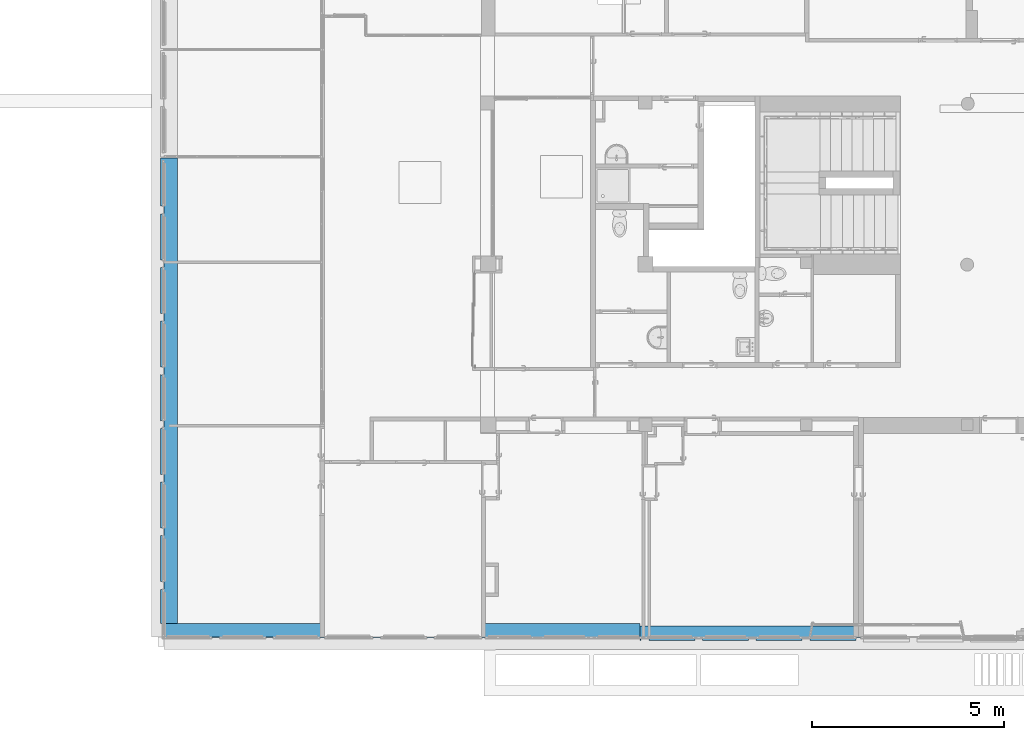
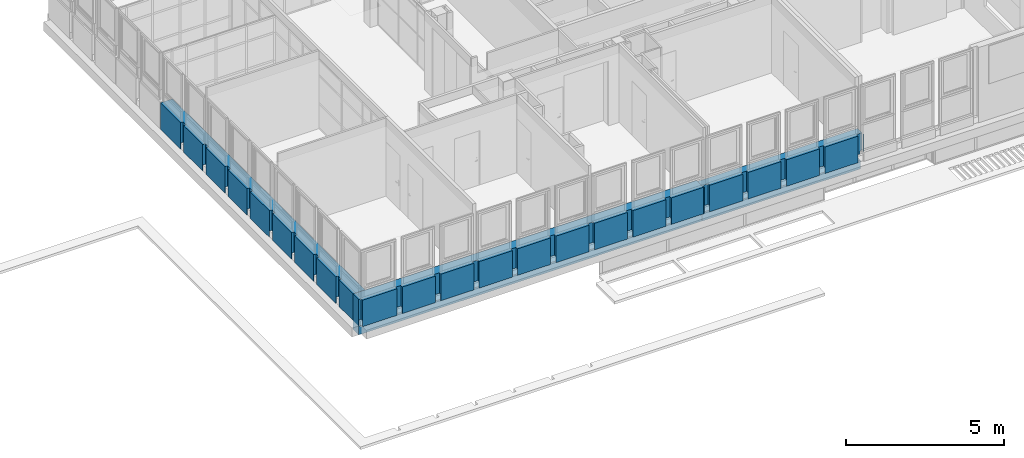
# One storey, part 71 of 97: 3 walls.
"""IFC4 building model written with IfcOpenShell, lengths in metres."""

from ifc_helpers import new_model, entity, si_unit, converted_unit, derived_unit, direction, frame, origin, place, context, subcontext, project, spatial, polygons, material, layer, layer_set, type_object, element, save


model = new_model("IFC4")

# Units and contexts
model_context = context("Model", 3, precision=1e-05, world=origin(), true_north=direction((6.12303176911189e-17, 1.0)))
body_context = subcontext(model_context, "Body", "Model", "MODEL_VIEW")
ifc_project = project(units=[si_unit("LENGTHUNIT", "METRE"), si_unit("AREAUNIT", "SQUARE_METRE"), si_unit("VOLUMEUNIT", "CUBIC_METRE"), converted_unit("PLANEANGLEUNIT", "DEGREE", entity("IfcRatioMeasure", 0.0174532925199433), si_unit("PLANEANGLEUNIT", "RADIAN"), dimensions=[0, 0, 0, 0, 0, 0, 0]), si_unit("MASSUNIT", "GRAM", prefix="KILO"), derived_unit("MASSDENSITYUNIT", [(si_unit("MASSUNIT", "GRAM", prefix="KILO"), 1), (si_unit("LENGTHUNIT", "METRE"), -3)]), derived_unit("MOMENTOFINERTIAUNIT", [(si_unit("LENGTHUNIT", "METRE"), 4)]), si_unit("TIMEUNIT", "SECOND"), si_unit("FREQUENCYUNIT", "HERTZ"), si_unit("THERMODYNAMICTEMPERATUREUNIT", "DEGREE_CELSIUS"), derived_unit("THERMALTRANSMITTANCEUNIT", [(si_unit("MASSUNIT", "GRAM", prefix="KILO"), 1), (si_unit("THERMODYNAMICTEMPERATUREUNIT", "KELVIN"), -1), (si_unit("TIMEUNIT", "SECOND"), -3)]), derived_unit("VOLUMETRICFLOWRATEUNIT", [(si_unit("LENGTHUNIT", "METRE"), 3), (si_unit("TIMEUNIT", "SECOND"), -1)]), si_unit("ELECTRICCURRENTUNIT", "AMPERE"), si_unit("ELECTRICVOLTAGEUNIT", "VOLT"), si_unit("POWERUNIT", "WATT"), si_unit("FORCEUNIT", "NEWTON", prefix="KILO"), si_unit("ILLUMINANCEUNIT", "LUX"), si_unit("LUMINOUSFLUXUNIT", "LUMEN"), si_unit("LUMINOUSINTENSITYUNIT", "CANDELA"), derived_unit("USERDEFINED", [(si_unit("MASSUNIT", "GRAM", prefix="KILO"), -1), (si_unit("LENGTHUNIT", "METRE"), -2), (si_unit("TIMEUNIT", "SECOND"), 3), (si_unit("LUMINOUSFLUXUNIT", "LUMEN"), 1)]), derived_unit("LINEARVELOCITYUNIT", [(si_unit("LENGTHUNIT", "METRE"), 1), (si_unit("TIMEUNIT", "SECOND"), -1)]), si_unit("PRESSUREUNIT", "PASCAL"), derived_unit("USERDEFINED", [(si_unit("LENGTHUNIT", "METRE"), -2), (si_unit("MASSUNIT", "GRAM", prefix="KILO"), 1), (si_unit("TIMEUNIT", "SECOND"), -2)]), derived_unit("LINEARFORCEUNIT", [(si_unit("MASSUNIT", "GRAM", prefix="KILO"), 1), (si_unit("LENGTHUNIT", "METRE"), 1), (si_unit("TIMEUNIT", "SECOND"), -2), (si_unit("LENGTHUNIT", "METRE"), -1)]), derived_unit("PLANARFORCEUNIT", [(si_unit("MASSUNIT", "GRAM", prefix="KILO"), 1), (si_unit("LENGTHUNIT", "METRE"), 1), (si_unit("TIMEUNIT", "SECOND"), -2), (si_unit("LENGTHUNIT", "METRE"), -2)])], contexts=[model_context])

# Site, building, storey
site_placement = place(None, origin())
site = spatial("IfcSite", under=ifc_project, at=site_placement, Name="Default", CompositionType="ELEMENT")
building_placement = place(site_placement, origin())
building = spatial("IfcBuilding", under=site, at=building_placement, Name="HOTEL CONSULAIRE BOULOGNE SUR MER", CompositionType="ELEMENT")
storey_placement = place(building_placement, frame((0.0, 0.0, 3.62152697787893)))
storey = spatial("IfcBuildingStorey", under=building, at=storey_placement, Name="Niveau 1", CompositionType="ELEMENT", Elevation=3.62152697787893)

# Walls
ifc_material = material(Name="Mur par défaut", Category="Divers")
ifc_layer_1 = layer(ifc_material, 0.44, Name="Mur par défaut", Category="Divers")
ifc_layer_set_1 = layer_set([ifc_layer_1], Name="Mur de base:Générique - Ext.440")
wall_type_1 = type_object("IfcWallType", Name="Mur de base:Générique - Ext.440", PredefinedType="NOTDEFINED", material=ifc_layer_set_1)
wall_1_placement = place(storey_placement, frame((-13.6630998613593, -29.2001047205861, -0.230422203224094), z_axis=(0.0, 0.0, 1.0), x_axis=(0.0, 1.0, 0.0)))
element("IfcWall", 1, at=wall_1_placement, inside=storey, type_object=wall_type_1, material=ifc_layer_set_1, Name="Mur de base:Générique - Ext.440", ObjectType="Mur de base:Générique - Ext.440", PredefinedType="NOTDEFINED", context=body_context, shape_type="Tessellation", body=[
    polygons([(0.0, 0.22, 0.0), (0.0, 0.22, 1.02203474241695), (0.890754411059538, 0.220000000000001, 1.02203474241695), (0.890754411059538, 0.220000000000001, 0.0), (1.08655521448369, 0.220000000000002, 0.0), (1.08655521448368, 0.220000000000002, 1.02203474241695), (2.29075441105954, 0.22, 1.02203474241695), (2.29075441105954, 0.22, 0.0), (2.48655521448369, 0.22, 0.0), (2.48655521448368, 0.22, 1.02203474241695), (3.69075441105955, 0.22, 1.02203474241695), (3.69075441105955, 0.22, 0.0), (3.88655521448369, 0.22, 0.0), (3.88655521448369, 0.22, 1.02203474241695), (5.09075441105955, 0.22, 1.02203474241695), (5.09075441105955, 0.22, 0.0), (5.28655521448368, 0.220000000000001, 0.0), (5.28655521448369, 0.220000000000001, 1.02203474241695), (6.49075441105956, 0.220000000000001, 1.02203474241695), (6.49075441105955, 0.220000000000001, 0.0), (6.6865552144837, 0.220000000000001, 0.0), (6.68655521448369, 0.220000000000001, 1.02203474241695), (7.89075441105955, 0.220000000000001, 1.02203474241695), (7.89075441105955, 0.220000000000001, 0.0), (8.08655521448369, 0.220000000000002, 0.0), (8.08655521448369, 0.220000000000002, 1.02203474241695), (9.29075441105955, 0.22, 1.02203474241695), (9.29075441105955, 0.22, 0.0), (9.4865552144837, 0.22, 0.0), (9.4865552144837, 0.22, 1.02203474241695), (10.6907544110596, 0.22, 1.02203474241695), (10.6907544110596, 0.22, 0.0), (0.888654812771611, 0.206002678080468, 0.0), (0.888654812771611, 0.202000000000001, 0.0), (0.0, 0.202000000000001, 0.0), (10.8865552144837, 0.22, 0.0), (12.1482588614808, 0.220000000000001, 0.0), (12.1482588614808, 0.202000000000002, 0.0), (10.8886548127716, 0.202000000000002, 0.0), (10.8886548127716, 0.206002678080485, 0.0), (9.48865481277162, 0.206002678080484, 0.0), (10.6886548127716, 0.206002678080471, 0.0), (10.6886548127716, 0.202000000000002, 0.0), (9.48865481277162, 0.202000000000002, 0.0), (8.08865481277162, 0.206002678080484, 0.0), (9.28865481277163, 0.206002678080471, 0.0), (9.28865481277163, 0.202000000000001, 0.0), (8.08865481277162, 0.202000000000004, 0.0), (6.68865481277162, 0.206002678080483, 0.0), (7.88865481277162, 0.20600267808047, 0.0), (7.88865481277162, 0.202000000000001, 0.0), (6.68865481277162, 0.202000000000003, 0.0), (5.28865481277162, 0.206002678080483, 0.0), (6.48865481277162, 0.20600267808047, 0.0), (6.48865481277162, 0.202000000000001, 0.0), (5.28865481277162, 0.202000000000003, 0.0), (3.88865481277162, 0.206002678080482, 0.0), (5.08865481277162, 0.206002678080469, 0.0), (5.08865481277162, 0.202, 0.0), (3.88865481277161, 0.202000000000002, 0.0), (2.48865481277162, 0.206002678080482, 0.0), (3.68865481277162, 0.206002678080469, 0.0), (3.68865481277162, 0.202, 0.0), (2.48865481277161, 0.202000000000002, 0.0), (12.1482588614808, 0.202000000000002, 0.230422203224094), (10.8886548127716, 0.202000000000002, 0.230422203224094), (10.6886548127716, 0.202000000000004, 0.230422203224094), (9.48865481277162, 0.202000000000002, 0.230422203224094), (9.28865481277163, 0.202000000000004, 0.230422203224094), (8.08865481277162, 0.202000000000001, 0.230422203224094), (7.88865481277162, 0.202000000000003, 0.230422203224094), (6.68865481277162, 0.202000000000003, 0.230422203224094), (6.48865481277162, 0.202000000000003, 0.230422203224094), (5.28865481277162, 0.202000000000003, 0.230422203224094), (5.08865481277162, 0.202000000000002, 0.230422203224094), (3.88865481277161, 0.202000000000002, 0.230422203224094), (3.68865481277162, 0.202000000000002, 0.230422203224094), (2.48865481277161, 0.202000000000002, 0.230422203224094), (2.28865481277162, 0.202000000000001, 0.230422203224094), (1.0886548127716, 0.202000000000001, 0.230422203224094), (1.0886548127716, 0.202000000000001, 0.0), (2.28865481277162, 0.202000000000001, 0.0), (12.1482588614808, -0.219999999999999, 1.02203474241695), (0.0, -0.22, 1.02203474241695), (0.0, -0.22, 0.230422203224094), (12.1482588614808, -0.219999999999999, 0.230422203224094), (12.1482588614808, 0.220000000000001, 1.02203474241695), (10.8865552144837, 0.22, 1.02203474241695), (1.08865481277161, 0.206002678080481, 0.0), (2.28865481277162, 0.206002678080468, 0.0), (10.8886548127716, 0.206002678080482, 1.02203474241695), (10.8886548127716, 0.125002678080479, 1.02203474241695), (10.6886548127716, 0.125002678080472, 1.02203474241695), (10.6886548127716, 0.206002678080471, 1.02203474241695), (9.48865481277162, 0.20600267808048, 1.02203474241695), (9.48865481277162, 0.125002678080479, 1.02203474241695), (9.28865481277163, 0.125002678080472, 1.02203474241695), (9.28865481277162, 0.206002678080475, 1.02203474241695), (8.08865481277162, 0.206002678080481, 1.02203474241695), (8.08865481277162, 0.125002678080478, 1.02203474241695), (7.88865481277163, 0.125002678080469, 1.02203474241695), (7.88865481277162, 0.206002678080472, 1.02203474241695), (6.68865481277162, 0.206002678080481, 1.02203474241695), (6.68865481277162, 0.125002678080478, 1.02203474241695), (6.48865481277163, 0.125002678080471, 1.02203474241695), (6.48865481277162, 0.206002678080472, 1.02203474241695), (5.28865481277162, 0.206002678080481, 1.02203474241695), (5.28865481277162, 0.125002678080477, 1.02203474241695), (5.08865481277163, 0.12500267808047, 1.02203474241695), (5.08865481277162, 0.206002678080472, 1.02203474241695), (3.88865481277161, 0.206002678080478, 1.02203474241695), (3.88865481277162, 0.125002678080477, 1.02203474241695), (3.68865481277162, 0.12500267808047, 1.02203474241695), (3.68865481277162, 0.206002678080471, 1.02203474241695), (2.48865481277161, 0.20600267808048, 1.02203474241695), (2.48865481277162, 0.125002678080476, 1.02203474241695), (2.28865481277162, 0.12500267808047, 1.02203474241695), (2.28865481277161, 0.206002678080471, 1.02203474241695), (1.0886548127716, 0.206002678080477, 1.02203474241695), (1.08865481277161, 0.125002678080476, 1.02203474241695), (0.888654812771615, 0.125002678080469, 1.02203474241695), (0.888654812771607, 0.206002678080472, 1.02203474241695), (0.0, 0.202000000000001, 0.230422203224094), (0.888654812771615, 0.125002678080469, 0.230422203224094), (0.888654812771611, 0.202000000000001, 0.230422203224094), (1.08865481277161, 0.125002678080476, 0.230422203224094), (2.28865481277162, 0.12500267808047, 0.230422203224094), (2.48865481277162, 0.125002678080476, 0.230422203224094), (3.68865481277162, 0.12500267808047, 0.230422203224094), (3.88865481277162, 0.125002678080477, 0.230422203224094), (5.08865481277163, 0.12500267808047, 0.230422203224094), (5.28865481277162, 0.125002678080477, 0.230422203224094), (6.48865481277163, 0.125002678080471, 0.230422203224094), (6.68865481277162, 0.125002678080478, 0.230422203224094), (7.88865481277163, 0.125002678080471, 0.230422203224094), (8.08865481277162, 0.125002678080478, 0.230422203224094), (9.28865481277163, 0.125002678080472, 0.230422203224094), (9.48865481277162, 0.125002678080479, 0.230422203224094), (10.6886548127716, 0.125002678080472, 0.230422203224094), (10.8886548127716, 0.125002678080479, 0.230422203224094)], [[[3, 4, 1, 2]], [[7, 8, 5, 6]], [[11, 12, 9, 10]], [[15, 16, 13, 14]], [[19, 20, 17, 18]], [[23, 24, 21, 22]], [[27, 28, 25, 26]], [[31, 32, 29, 30]], [[87, 37, 36, 88]], [[126, 124, 121, 120]], [[128, 127, 117, 116]], [[130, 129, 113, 112]], [[132, 131, 109, 108]], [[134, 133, 105, 104]], [[136, 135, 101, 100]], [[138, 137, 97, 96]], [[140, 139, 93, 92]], [[34, 35, 1, 4, 33]], [[38, 39, 40, 36, 37]], [[42, 43, 44, 41, 29, 32]], [[46, 47, 48, 45, 25, 28]], [[50, 51, 52, 49, 21, 24]], [[54, 55, 56, 53, 17, 20]], [[58, 59, 60, 57, 13, 16]], [[62, 63, 64, 61, 9, 12]], [[90, 82, 81, 89, 5, 8]], [[126, 80, 79, 127, 128, 78, 77, 129, 130, 76, 75, 131, 132, 74, 73, 133, 134, 72, 71, 135, 136, 70, 69, 137, 138, 68, 67, 139, 140, 66, 65, 86, 85, 123, 125, 124]], [[66, 39, 38, 65]], [[68, 44, 43, 67]], [[70, 48, 47, 69]], [[71, 72, 52, 51]], [[74, 56, 55, 73]], [[76, 60, 59, 75]], [[78, 64, 63, 77]], [[80, 81, 82, 79]], [[84, 85, 86, 83]], [[125, 123, 35, 34]], [[83, 86, 65, 38, 37, 87]], [[125, 34, 33, 122, 121, 124]], [[79, 82, 90, 118, 117, 127]], [[77, 63, 62, 114, 113, 129]], [[75, 59, 58, 110, 109, 131]], [[73, 55, 54, 106, 105, 133]], [[71, 51, 50, 102, 101, 135]], [[69, 47, 46, 98, 97, 137]], [[67, 43, 42, 94, 93, 139]], [[83, 87, 88, 91, 92, 93, 94, 31, 30, 95, 96, 97, 98, 27, 26, 99, 100, 101, 102, 23, 22, 103, 104, 105, 106, 19, 18, 107, 108, 109, 110, 15, 14, 111, 112, 113, 114, 11, 10, 115, 116, 117, 118, 7, 6, 119, 120, 121, 122, 3, 2, 84]], [[123, 85, 84, 2, 1, 35]], [[80, 126, 120, 119, 89, 81]], [[78, 128, 116, 115, 61, 64]], [[76, 130, 112, 111, 57, 60]], [[74, 132, 108, 107, 53, 56]], [[72, 134, 104, 103, 49, 52]], [[70, 136, 100, 99, 45, 48]], [[68, 138, 96, 95, 41, 44]], [[66, 140, 92, 91, 40, 39]], [[33, 4, 3, 122]], [[90, 8, 7, 118]], [[62, 12, 11, 114]], [[58, 16, 15, 110]], [[54, 20, 19, 106]], [[50, 24, 23, 102]], [[46, 28, 27, 98]], [[42, 32, 31, 94]], [[89, 119, 6, 5]], [[9, 61, 115, 10]], [[57, 111, 14, 13]], [[17, 53, 107, 18]], [[21, 49, 103, 22]], [[25, 45, 99, 26]], [[29, 41, 95, 30]], [[40, 91, 88, 36]]], closed=True),
])
ifc_layer_2 = layer(ifc_material, 0.45, Name="Mur par défaut", Category="Divers")
ifc_layer_set_2 = layer_set([ifc_layer_2], Name="Mur de base:Générique - Ext.450")
wall_type_2 = type_object("IfcWallType", Name="Mur de base:Générique - Ext.450", PredefinedType="NOTDEFINED", material=ifc_layer_set_2)
wall_2_placement = place(storey_placement, frame((-1.37110579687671, -29.4251047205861, -0.570400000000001), z_axis=(0.0, 0.0, 1.0), x_axis=(-1.0, 0.0, 0.0)))
element("IfcWall", 2, at=wall_2_placement, inside=storey, type_object=wall_type_2, material=ifc_layer_set_2, Name="Mur de base:Générique - Ext.450", ObjectType="Mur de base:Générique - Ext.450", PredefinedType="NOTDEFINED", context=body_context, shape_type="Tessellation", body=[
    polygons([(7.87972880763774e-16, 0.225000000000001, 1.36201253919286), (1.1725698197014, 0.225000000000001, 1.36201253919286), (1.1725698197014, 0.225000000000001, 0.34), (-2.94894248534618e-16, 0.225000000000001, 0.34), (1.3680585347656, 0.225000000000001, 0.34), (1.3680585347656, 0.225000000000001, 1.36201253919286), (2.5725698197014, 0.225000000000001, 1.36201253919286), (2.5725698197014, 0.225000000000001, 0.34), (2.7680585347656, 0.225000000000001, 0.34), (2.7680585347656, 0.225000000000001, 1.36201253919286), (3.97256981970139, 0.225000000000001, 1.36201253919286), (3.97256981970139, 0.225000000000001, 0.34), (4.1680585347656, 0.225000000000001, 0.34), (4.1680585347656, 0.225000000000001, 1.36201253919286), (5.37256981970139, 0.225000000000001, 1.36201253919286), (5.37256981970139, 0.225000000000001, 0.34), (5.5680585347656, 0.225000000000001, 0.34), (5.5680585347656, 0.225000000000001, 1.36201253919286), (6.77256981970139, 0.225000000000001, 1.36201253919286), (6.77256981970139, 0.225000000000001, 0.34), (6.96805853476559, 0.225000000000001, 0.34), (6.96805853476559, 0.225000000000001, 1.36201253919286), (8.17256981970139, 0.225000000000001, 1.36201253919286), (8.17256981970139, 0.225000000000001, 0.34), (8.36805853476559, 0.225000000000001, 0.34), (8.36805853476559, 0.225000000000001, 1.36201253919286), (9.57256981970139, 0.225000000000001, 1.36201253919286), (9.57256981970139, 0.225000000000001, 0.34), (9.76805853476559, 0.225000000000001, 0.34), (9.76805853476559, 0.225000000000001, 1.36201253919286), (10.9725698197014, 0.225000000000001, 1.36201253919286), (10.9725698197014, 0.225000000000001, 0.34), (-2.83526160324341e-16, 0.138962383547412, 0.00739999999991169), (1.38831978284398e-16, -0.154999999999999, 0.00739999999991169), (9.76187753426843e-17, -0.225000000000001, 0.00739999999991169), (9.76187753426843e-17, -0.225000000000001, 0.335400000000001), (1.38831978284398e-16, -0.154999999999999, 0.335400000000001), (-2.83526160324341e-16, 0.138962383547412, 0.335400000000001), (11.1703141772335, 0.209962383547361, 0.34), (11.1680585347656, 0.225000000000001, 0.34), (12.4228748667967, 0.224999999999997, 0.34), (12.4228748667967, 0.21, 0.34), (10.9703198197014, 0.21, 0.34), (9.77031417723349, 0.209962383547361, 0.34), (9.57031981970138, 0.21, 0.34), (8.37031417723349, 0.209962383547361, 0.34), (8.17031981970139, 0.21, 0.34), (6.97031417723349, 0.209962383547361, 0.34), (6.77031981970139, 0.21, 0.34), (5.57031417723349, 0.209962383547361, 0.34), (5.3703198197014, 0.21, 0.34), (4.1703141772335, 0.209962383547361, 0.34), (3.97031981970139, 0.21, 0.34), (2.7703141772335, 0.209962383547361, 0.34), (2.5703198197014, 0.21, 0.34), (1.3703141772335, 0.209962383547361, 0.34), (10.9703141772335, 0.21, 0.570400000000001), (9.77030853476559, 0.21, 0.570400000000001), (9.57031417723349, 0.21, 0.570400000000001), (8.37030853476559, 0.21, 0.570400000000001), (8.17031417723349, 0.21, 0.570400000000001), (6.9703085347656, 0.21, 0.570400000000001), (6.77031417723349, 0.21, 0.570400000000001), (5.5703085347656, 0.21, 0.570400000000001), (5.3703141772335, 0.21, 0.570400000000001), (4.1703085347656, 0.21, 0.570400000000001), (3.9703141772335, 0.21, 0.570400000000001), (2.7703085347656, 0.21, 0.570400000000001), (2.5703141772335, 0.21, 0.570400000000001), (1.3703085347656, 0.21, 0.570400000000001), (1.1703141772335, 0.21, 0.570400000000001), (-2.45714910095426e-16, 0.21, 0.570400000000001), (-2.45714910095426e-16, 0.21, 0.34), (1.1703198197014, 0.21, 0.34), (12.4228748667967, 0.128962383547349, 0.335400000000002), (12.4228748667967, 0.128962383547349, -5.41433564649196e-16), (12.4228748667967, 0.138962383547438, -5.41433564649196e-16), (12.4228748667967, 0.138962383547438, 0.335400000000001), (12.5119940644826, -0.224999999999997, 1.36201253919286), (12.0719940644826, -0.225000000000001, 1.36201253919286), (9.76187753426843e-17, -0.225000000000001, 1.36201253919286), (9.76187753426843e-17, -0.225000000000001, 0.570400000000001), (12.0719940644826, -0.225000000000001, 0.570400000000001), (12.4939940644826, -0.225000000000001, 0.570400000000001), (12.4939940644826, -0.225000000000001, 0.339977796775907), (12.4939940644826, -0.225000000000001, 0.335400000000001), (4.3424022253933, -0.225000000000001, 0.335400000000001), (4.2924022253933, -0.225000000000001, 0.335400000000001), (3.75866738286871, -0.225000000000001, 0.00739999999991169), (3.75866738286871, -0.225000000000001, -5.41433564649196e-16), (4.2924022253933, -0.225000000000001, -5.41433564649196e-16), (4.3424022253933, -0.225000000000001, -5.41433564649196e-16), (12.5119940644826, -0.224999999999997, -5.41433564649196e-16), (12.5119940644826, -0.224999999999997, 0.339977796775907), (11.1680585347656, 0.225000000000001, 1.36201253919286), (12.4228748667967, 0.225000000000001, 1.36201253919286), (12.5119940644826, 0.128962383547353, -5.41433564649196e-16), (12.5119940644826, 0.128962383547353, 1.36201253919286), (3.75866738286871, 0.138962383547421, -5.41433564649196e-16), (3.77787486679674, 0.138962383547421, -5.41433564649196e-16), (4.11787486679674, 0.138962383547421, -5.41433564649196e-16), (12.4228748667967, 0.128962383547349, 1.36201253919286), (11.1703141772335, 0.209962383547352, 1.36201253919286), (11.1703141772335, 0.128962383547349, 1.36201253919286), (10.9703141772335, 0.128962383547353, 1.36201253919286), (10.9703141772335, 0.209962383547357, 1.36201253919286), (9.77031417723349, 0.209962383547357, 1.36201253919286), (9.77031417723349, 0.128962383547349, 1.36201253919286), (9.57031417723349, 0.128962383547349, 1.36201253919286), (9.57031417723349, 0.209962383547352, 1.36201253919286), (8.37031417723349, 0.209962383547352, 1.36201253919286), (8.37031417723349, 0.128962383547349, 1.36201253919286), (8.17031417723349, 0.128962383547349, 1.36201253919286), (8.17031417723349, 0.209962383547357, 1.36201253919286), (6.97031417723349, 0.209962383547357, 1.36201253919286), (6.97031417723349, 0.128962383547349, 1.36201253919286), (6.77031417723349, 0.128962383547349, 1.36201253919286), (6.77031417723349, 0.209962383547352, 1.36201253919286), (5.57031417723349, 0.209962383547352, 1.36201253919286), (5.57031417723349, 0.128962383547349, 1.36201253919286), (5.3703141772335, 0.128962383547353, 1.36201253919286), (5.3703141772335, 0.209962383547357, 1.36201253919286), (4.1703141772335, 0.209962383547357, 1.36201253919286), (4.1703141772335, 0.128962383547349, 1.36201253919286), (3.9703141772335, 0.128962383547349, 1.36201253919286), (3.9703141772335, 0.209962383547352, 1.36201253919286), (2.7703141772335, 0.209962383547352, 1.36201253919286), (2.7703141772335, 0.128962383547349, 1.36201253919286), (2.5703141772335, 0.128962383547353, 1.36201253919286), (2.5703141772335, 0.209962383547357, 1.36201253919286), (1.3703141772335, 0.209962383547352, 1.36201253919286), (1.3703141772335, 0.128962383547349, 1.36201253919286), (1.1703141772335, 0.128962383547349, 1.36201253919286), (1.1703141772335, 0.209962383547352, 1.36201253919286), (-1.21475193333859e-15, -0.154999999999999, 1.36201253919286), (1.38831978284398e-16, -0.154999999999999, 0.570400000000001), (1.1703141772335, 0.128962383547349, 0.570400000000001), (1.3703141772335, 0.128962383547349, 0.570400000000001), (2.5703141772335, 0.128962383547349, 0.570400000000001), (2.7703141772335, 0.128962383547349, 0.570400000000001), (3.9703141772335, 0.128962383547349, 0.570400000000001), (4.1703141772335, 0.128962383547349, 0.570400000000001), (5.3703141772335, 0.128962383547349, 0.570400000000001), (5.57031417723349, 0.128962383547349, 0.570400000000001), (6.77031417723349, 0.128962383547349, 0.570400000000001), (6.97031417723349, 0.128962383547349, 0.570400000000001), (8.17031417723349, 0.128962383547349, 0.570400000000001), (8.37031417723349, 0.128962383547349, 0.570400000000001), (9.57031417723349, 0.128962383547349, 0.570400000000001), (9.77031417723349, 0.128962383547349, 0.570400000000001), (10.9703141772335, 0.128962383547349, 0.570400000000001), (11.1703141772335, 0.128962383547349, 0.570400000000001), (11.1703141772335, 0.209962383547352, 0.570400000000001), (3.75866738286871, 0.138962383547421, 0.00739999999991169), (12.4939940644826, 0.128962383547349, 0.335400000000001), (12.4228748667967, 0.209997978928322, 0.570400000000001), (12.4228748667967, 0.128962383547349, 0.570400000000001), (12.4939940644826, 0.128962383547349, 0.570400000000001)], [[[2, 3, 4, 1]], [[7, 8, 5, 6]], [[11, 12, 9, 10]], [[15, 16, 13, 14]], [[19, 20, 17, 18]], [[23, 24, 21, 22]], [[27, 28, 25, 26]], [[31, 32, 29, 30]], [[96, 41, 40, 95]], [[137, 133, 132, 138]], [[139, 129, 128, 140]], [[141, 125, 124, 142]], [[143, 121, 120, 144]], [[145, 117, 116, 146]], [[147, 113, 112, 148]], [[149, 109, 108, 150]], [[152, 151, 105, 104]], [[101, 100, 99, 154, 33, 38, 78, 77]], [[158, 157, 102, 98, 97, 76, 75, 155]], [[35, 36, 37, 38, 33, 34]], [[81, 135, 1, 4, 73, 72, 136, 82]], [[138, 132, 131]], [[142, 124, 123]], [[146, 116, 115]], [[148, 112, 111]], [[150, 108, 107]], [[153, 152, 104, 103]], [[89, 154, 99, 90]], [[85, 84, 158, 155, 86]], [[42, 39, 40, 41]], [[43, 44, 29, 32]], [[45, 46, 25, 28]], [[47, 48, 21, 24]], [[49, 50, 17, 20]], [[51, 52, 13, 16]], [[53, 54, 9, 12]], [[55, 56, 5, 8]], [[101, 77, 76, 97, 93, 92, 91, 90, 99, 100]], [[34, 33, 154, 89, 35]], [[74, 73, 4, 3]], [[68, 67, 141, 142, 66, 65, 143, 144, 64, 63, 145, 146, 62, 61, 147, 148, 60, 59, 149, 150, 58, 57, 151, 152, 153, 156, 157, 158, 84, 83, 82, 136, 72, 71, 137, 138, 70, 69, 139, 140]], [[57, 44, 43]], [[59, 46, 45]], [[61, 48, 47]], [[63, 50, 49]], [[65, 52, 51]], [[67, 54, 53]], [[69, 56, 55]], [[44, 57, 58]], [[46, 59, 60]], [[48, 61, 62]], [[50, 63, 64]], [[52, 65, 66]], [[54, 67, 68]], [[56, 69, 70]], [[71, 72, 73, 74]], [[89, 90, 91, 92, 93, 94, 79, 80, 81, 82, 83, 84, 85, 86, 87, 88, 36, 35]], [[76, 77, 78, 75]], [[94, 93, 97, 98, 79]], [[71, 134, 133, 137]], [[69, 130, 129, 139]], [[67, 126, 125, 141]], [[65, 122, 121, 143]], [[63, 118, 117, 145]], [[61, 114, 113, 147]], [[59, 110, 109, 149]], [[57, 106, 105, 151]], [[156, 42, 41, 96, 102, 157]], [[80, 79, 98, 102, 96, 95, 103, 104, 105, 106, 31, 30, 107, 108, 109, 110, 27, 26, 111, 112, 113, 114, 23, 22, 115, 116, 117, 118, 19, 18, 119, 120, 121, 122, 15, 14, 123, 124, 125, 126, 11, 10, 127, 128, 129, 130, 7, 6, 131, 132, 133, 134, 2, 1, 135, 81]], [[38, 37, 36, 88, 87, 86, 155, 75, 78]], [[71, 2, 134]], [[69, 7, 130]], [[67, 11, 126]], [[65, 15, 122]], [[63, 19, 118]], [[61, 23, 114]], [[59, 27, 110]], [[57, 31, 106]], [[74, 3, 71]], [[55, 8, 69]], [[53, 12, 67]], [[51, 16, 65]], [[49, 20, 63]], [[47, 24, 61]], [[45, 28, 59]], [[43, 32, 57]], [[2, 71, 3]], [[7, 69, 8]], [[11, 67, 12]], [[15, 65, 16]], [[19, 63, 20]], [[23, 61, 24]], [[27, 59, 28]], [[31, 57, 32]], [[131, 70, 138]], [[123, 66, 142]], [[115, 62, 146]], [[111, 60, 148]], [[107, 58, 150]], [[70, 131, 6, 5, 56]], [[68, 127, 10, 9, 54]], [[66, 123, 14, 13, 52]], [[64, 119, 18, 17, 50]], [[62, 115, 22, 21, 48]], [[60, 111, 26, 25, 46]], [[58, 107, 30, 29, 44]], [[153, 103, 95, 40, 39]], [[68, 128, 127]], [[64, 120, 119]], [[128, 68, 140]], [[120, 64, 144]], [[156, 39, 42]], [[39, 156, 153]]], closed=True),
])
ifc_layer_3 = layer(ifc_material, 0.38, Name="Mur par défaut", Category="Divers")
ifc_layer_set_3 = layer_set([ifc_layer_3], Name="Mur de base:Générique - Ext.380")
wall_type_3 = type_object("IfcWallType", Name="Mur de base:Générique - Ext.380", PredefinedType="NOTDEFINED", material=ifc_layer_set_3)
wall_3_placement = place(storey_placement, frame((4.45858002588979, -29.4601047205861, -0.5704), z_axis=(0.0, 0.0, 1.0), x_axis=(-1.0, 0.0, 0.0)))
element("IfcWall", 3, at=wall_3_placement, inside=storey, type_object=wall_type_3, material=ifc_layer_set_3, Name="Mur de base:Générique - Ext.380", ObjectType="Mur de base:Générique - Ext.380", PredefinedType="NOTDEFINED", context=body_context, shape_type="Tessellation", body=[
    polygons([(0.0650000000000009, 0.103962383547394, 0.0), (0.0650000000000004, 0.0839999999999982, 0.0), (0.0650000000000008, -0.190000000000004, 0.0), (0.0650000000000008, -0.190000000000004, 0.3354), (0.0650000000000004, 0.0839999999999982, 0.3354), (0.0650000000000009, 0.103962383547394, 0.3354), (1.37235320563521, -0.190000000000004, 0.0), (1.37235320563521, -0.190000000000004, 0.00739999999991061), (5.8296858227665, -0.190000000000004, 0.00739999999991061), (5.8296858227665, -0.190000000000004, 0.3354), (1.37235320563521, 0.103962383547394, 0.0), (5.8296858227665, 0.103962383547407, 0.00739999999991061), (5.8296858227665, 0.103962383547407, 0.3354), (1.37235320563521, 0.103962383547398, 0.00739999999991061)], [[[3, 4, 5, 6, 1, 2]], [[8, 9, 10, 4, 3, 7]], [[7, 3, 2, 1, 11]], [[9, 8, 14, 12]], [[10, 9, 12, 13]], [[7, 11, 14, 8]], [[14, 11, 1, 6, 13, 12]], [[5, 4, 10, 13, 6]]], closed=True),
    polygons([(5.8296858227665, 0.189999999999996, 1.36201253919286), (5.8296858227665, -0.190000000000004, 1.36201253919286), (5.8296858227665, -0.190000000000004, 0.5704), (5.8296858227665, 0.174999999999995, 0.5704), (5.8296858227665, 0.174999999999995, 0.339999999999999), (5.8296858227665, 0.189999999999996, 0.339999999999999), (9.50982325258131e-16, -0.190000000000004, 0.686502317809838), (9.50982325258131e-16, -0.190000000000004, 1.36201253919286), (5.6141041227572e-16, 0.0939623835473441, 1.36201253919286), (5.6141041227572e-16, 0.0939623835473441, 0.686502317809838), (1.40225564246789, 0.189999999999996, 1.36201253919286), (1.40225564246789, 0.189999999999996, 0.339999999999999), (0.197744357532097, 0.189999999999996, 0.339999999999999), (0.197744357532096, 0.189999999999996, 1.36201253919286), (0.0650000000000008, -0.190000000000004, 0.686502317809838), (0.0650000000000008, -0.190000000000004, 0.5704), (2.8, 0.174999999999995, 0.5704), (1.5999943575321, 0.174999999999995, 0.5704), (1.59999999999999, 0.174999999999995, 0.339999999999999), (2.80000564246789, 0.174999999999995, 0.339999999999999), (5.6, 0.174999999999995, 0.5704), (4.3999943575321, 0.174999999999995, 0.5704), (4.39999999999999, 0.174999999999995, 0.339999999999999), (5.60000564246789, 0.174999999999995, 0.339999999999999), (4.2, 0.174999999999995, 0.5704), (2.9999943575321, 0.174999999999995, 0.5704), (2.99999999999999, 0.174999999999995, 0.339999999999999), (4.2000056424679, 0.174999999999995, 0.339999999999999), (1.5977443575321, 0.189999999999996, 0.339999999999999), (1.5977443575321, 0.189999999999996, 1.36201253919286), (2.80225564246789, 0.189999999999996, 1.36201253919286), (2.80225564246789, 0.189999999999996, 0.339999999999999), (2.9977443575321, 0.189999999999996, 0.339999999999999), (4.2022556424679, 0.190000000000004, 0.339999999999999), (5.7999943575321, 0.174999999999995, 0.5704), (5.79999999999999, 0.174999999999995, 0.339999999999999), (0.0650000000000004, 0.0939623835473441, 0.686502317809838), (0.0650000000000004, 0.0839999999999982, 0.686502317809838), (4.3977443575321, 0.189999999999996, 0.339999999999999), (5.6022556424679, 0.190000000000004, 0.339999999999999), (5.7977443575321, 0.189999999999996, 0.339999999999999), (4.3977443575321, 0.189999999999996, 1.36201253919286), (5.6022556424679, 0.189999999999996, 1.36201253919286), (2.9977443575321, 0.189999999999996, 1.36201253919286), (4.2022556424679, 0.189999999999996, 1.36201253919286), (5.7977443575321, 0.189999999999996, 1.36201253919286), (5.79999999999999, 0.174962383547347, 1.36201253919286), (5.8, 0.0939623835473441, 1.36201253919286), (5.6, 0.0939623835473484, 1.36201253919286), (5.6, 0.174962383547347, 1.36201253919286), (4.39999999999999, 0.174962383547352, 1.36201253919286), (4.39999999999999, 0.0939623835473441, 1.36201253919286), (4.2, 0.0939623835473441, 1.36201253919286), (4.2, 0.174962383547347, 1.36201253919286), (2.99999999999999, 0.174962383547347, 1.36201253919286), (2.99999999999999, 0.0939623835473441, 1.36201253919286), (2.8, 0.0939623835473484, 1.36201253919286), (2.8, 0.174962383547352, 1.36201253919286), (1.59999999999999, 0.174962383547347, 1.36201253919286), (1.59999999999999, 0.0939623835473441, 1.36201253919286), (1.4, 0.0939623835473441, 1.36201253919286), (1.4, 0.174962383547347, 1.36201253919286), (0.199999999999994, 0.174962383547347, 1.36201253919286), (0.199999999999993, 0.0939623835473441, 1.36201253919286), (1.40000564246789, 0.174999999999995, 0.5704), (1.4, 0.174962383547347, 0.339999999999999), (1.4, 0.0939623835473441, 0.5704), (1.59999999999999, 0.0939623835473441, 0.5704), (2.8, 0.0939623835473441, 0.5704), (2.99999999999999, 0.0939623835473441, 0.5704), (4.2, 0.0939623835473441, 0.5704), (4.39999999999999, 0.0939623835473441, 0.5704), (5.6, 0.0939623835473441, 0.5704), (5.8, 0.0939623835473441, 0.5704), (0.199999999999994, 0.174962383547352, 0.339999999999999), (0.065000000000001, 0.0839999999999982, 0.5704), (0.0650000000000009, 0.0939623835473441, 0.5704), (0.199999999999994, 0.0939623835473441, 0.5704), (0.199999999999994, 0.174962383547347, 0.5704)], [[[2, 3, 4, 5, 6, 1]], [[17, 58, 57, 69]], [[25, 54, 53, 71]], [[21, 50, 49, 73]], [[9, 10, 7, 8]], [[68, 60, 59]], [[72, 52, 51]], [[16, 15, 38, 37, 77, 76]], [[78, 64, 63, 79]], [[11, 12, 13, 14]], [[31, 32, 29, 30]], [[43, 40, 39, 42]], [[45, 34, 33, 44]], [[1, 6, 41, 46]], [[67, 61, 60, 68]], [[69, 57, 56, 70]], [[71, 53, 52, 72]], [[73, 49, 48, 74]], [[37, 10, 9, 64, 78, 77]], [[15, 16, 3, 2, 8, 7]], [[17, 18, 19, 20]], [[21, 22, 23, 24]], [[25, 26, 27, 28]], [[4, 35, 36, 5]], [[28, 27, 33, 34]], [[7, 10, 37, 38, 15]], [[24, 23, 39, 40]], [[20, 19, 29, 32]], [[5, 36, 41, 6]], [[66, 75, 13, 12]], [[79, 65, 67, 68, 18, 17, 69, 70, 26, 25, 71, 72, 22, 21, 73, 74, 35, 4, 3, 16, 76, 77, 78]], [[2, 1, 46, 47, 48, 49, 50, 43, 42, 51, 52, 53, 54, 45, 44, 55, 56, 57, 58, 31, 30, 59, 60, 61, 62, 11, 14, 63, 64, 9, 8]], [[65, 66, 12, 11, 62]], [[65, 62, 61]], [[61, 67, 65]], [[59, 18, 68]], [[51, 22, 72]], [[18, 59, 30, 29]], [[26, 55, 44, 33]], [[22, 51, 42, 39]], [[35, 47, 46, 41]], [[79, 63, 14, 13, 75]], [[29, 19, 18]], [[33, 27, 26]], [[39, 23, 22]], [[41, 36, 35]], [[17, 31, 58]], [[25, 45, 54]], [[21, 43, 50]], [[20, 32, 17]], [[28, 34, 25]], [[24, 40, 21]], [[31, 17, 32]], [[45, 25, 34]], [[43, 21, 40]], [[26, 56, 55]], [[35, 48, 47]], [[56, 26, 70]], [[48, 35, 74]], [[65, 75, 66]], [[75, 65, 79]]], closed=True),
    polygons([(2.46539316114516e-16, 0.19, 1.36201253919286), (0.0022556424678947, 0.19, 1.36201253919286), (0.00225564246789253, 0.19, 0.686502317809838), (2.46539316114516e-16, 0.19, 0.686502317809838), (1.37870911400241e-15, 0.174962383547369, 1.36201253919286), (2.95841984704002e-16, 0.174962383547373, 0.686502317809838)], [[[2, 3, 4, 1]], [[5, 2, 1]], [[6, 4, 3]], [[1, 4, 6, 5]], [[6, 3, 2, 5]]], closed=True),
])

save(model, "model.ifc")
